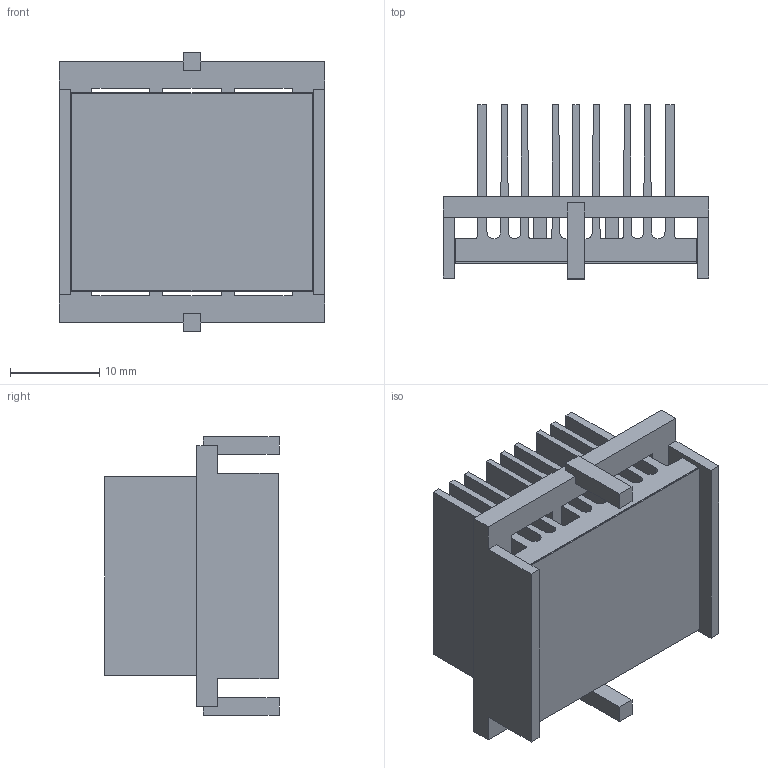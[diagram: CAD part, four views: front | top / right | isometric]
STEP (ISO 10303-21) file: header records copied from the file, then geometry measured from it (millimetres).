
FILE_DESCRIPTION (( 'STEP AP214' ), '1' );
FILE_NAME ('INH27001-18-2.6BU.STEP', '2023-02-16T16:09:51', ( '' ), ( '' ), 'SwSTEP 2.0', 'SolidWorks 2020', '' );
FILE_SCHEMA (( 'AUTOMOTIVE_DESIGN' ));
Length unit declared in the file: millimetre
Products named in the file (1): INH27001-18-2.6BU
Bounding box: 29.7 x 19.5 x 31.2 mm (x, y, z)
Volume: 5486.6 mm3; surface area: 10934 mm2
Topology: 3 solids, 3 shells, 118 faces, 336 edges, 224 vertices
Faces by surface type: plane 100, cylinder 18
Entity records: 5150 total; most frequent: CARTESIAN_POINT 679, ORIENTED_EDGE 672, DIRECTION 610, EDGE_CURVE 336, VECTOR 300, LINE 300, VERTEX_POINT 224, AXIS2_PLACEMENT_3D 155
